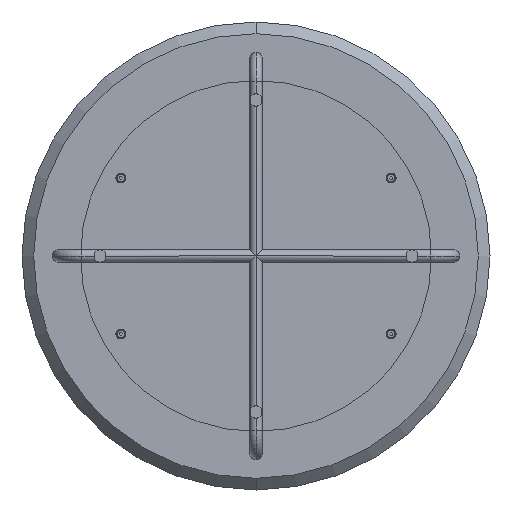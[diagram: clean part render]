
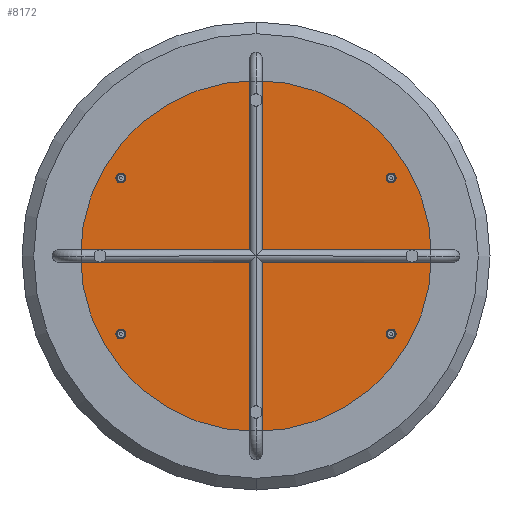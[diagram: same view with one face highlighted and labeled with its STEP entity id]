
A CAD part, front view. The second image highlights one B-rep face of the part: STEP entity #8172.
In plain terms, the highlighted planar face has unit normal (0, -1, 0) as drawn and (0, 0, 1) by its records, which use the part's own axes.
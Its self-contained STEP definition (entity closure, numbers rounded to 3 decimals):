
#62 = EDGE_LOOP ( 'NONE', ( #5763, #4122 ) ) ;
#75 = DIRECTION ( 'NONE',  ( 0., 0., 1. ) ) ;
#147 = VERTEX_POINT ( 'NONE', #12154 ) ;
#158 = CIRCLE ( 'NONE', #760, 2.8 ) ;
#176 = ORIENTED_EDGE ( 'NONE', *, *, #11193, .F. ) ;
#190 = FACE_BOUND ( 'NONE', #6697, .T. ) ;
#292 = CIRCLE ( 'NONE', #9315, 2.8 ) ;
#308 = CARTESIAN_POINT ( 'NONE',  ( -170.405, -100., -39.123 ) ) ;
#371 = CARTESIAN_POINT ( 'NONE',  ( 0., 0., -39.123 ) ) ;
#674 = EDGE_CURVE ( 'NONE', #9639, #7060, #11123, .T. ) ;
#696 = DIRECTION ( 'NONE',  ( 1., 0., 0. ) ) ;
#723 = CARTESIAN_POINT ( 'NONE',  ( -176.005, -100., -39.123 ) ) ;
#749 = CIRCLE ( 'NONE', #7604, 2.8 ) ;
#760 = AXIS2_PLACEMENT_3D ( 'NONE', #1659, #8228, #3571 ) ;
#762 = CARTESIAN_POINT ( 'NONE',  ( -173.205, 100., -39.123 ) ) ;
#764 = CIRCLE ( 'NONE', #7442, 2.8 ) ;
#841 = ORIENTED_EDGE ( 'NONE', *, *, #9899, .F. ) ;
#844 = ORIENTED_EDGE ( 'NONE', *, *, #8254, .F. ) ;
#873 = VERTEX_POINT ( 'NONE', #11907 ) ;
#958 = AXIS2_PLACEMENT_3D ( 'NONE', #8066, #5355, #696 ) ;
#1009 = CARTESIAN_POINT ( 'NONE',  ( -173.205, 100., -39.123 ) ) ;
#1077 = CIRCLE ( 'NONE', #7928, 2.8 ) ;
#1249 = ORIENTED_EDGE ( 'NONE', *, *, #2289, .F. ) ;
#1303 = DIRECTION ( 'NONE',  ( 1., 0., 0. ) ) ;
#1419 = DIRECTION ( 'NONE',  ( 1., 0., 0. ) ) ;
#1554 = CARTESIAN_POINT ( 'NONE',  ( 2.8, -200., -39.123 ) ) ;
#1637 = EDGE_LOOP ( 'NONE', ( #3566, #1249 ) ) ;
#1659 = CARTESIAN_POINT ( 'NONE',  ( -173.205, -100., -39.123 ) ) ;
#1666 = CARTESIAN_POINT ( 'NONE',  ( 176.005, 100., -39.123 ) ) ;
#1698 = VERTEX_POINT ( 'NONE', #1554 ) ;
#2044 = DIRECTION ( 'NONE',  ( 1., 0., 0. ) ) ;
#2052 = CARTESIAN_POINT ( 'NONE',  ( -2.8, 200., -39.123 ) ) ;
#2252 = DIRECTION ( 'NONE',  ( 0., 0., 1. ) ) ;
#2289 = EDGE_CURVE ( 'NONE', #2571, #6004, #1077, .T. ) ;
#2499 = VERTEX_POINT ( 'NONE', #4751 ) ;
#2571 = VERTEX_POINT ( 'NONE', #2052 ) ;
#2974 = FACE_BOUND ( 'NONE', #1637, .T. ) ;
#3034 = EDGE_CURVE ( 'NONE', #9051, #873, #292, .T. ) ;
#3117 = CARTESIAN_POINT ( 'NONE',  ( 170.405, 100., -39.123 ) ) ;
#3118 = CARTESIAN_POINT ( 'NONE',  ( 173.205, -100., -39.123 ) ) ;
#3123 = CIRCLE ( 'NONE', #4089, 2.8 ) ;
#3146 = AXIS2_PLACEMENT_3D ( 'NONE', #371, #8846, #1419 ) ;
#3206 = DIRECTION ( 'NONE',  ( 0., 0., 1. ) ) ;
#3325 = VERTEX_POINT ( 'NONE', #1666 ) ;
#3340 = VERTEX_POINT ( 'NONE', #4475 ) ;
#3537 = ORIENTED_EDGE ( 'NONE', *, *, #3034, .F. ) ;
#3566 = ORIENTED_EDGE ( 'NONE', *, *, #8347, .F. ) ;
#3571 = DIRECTION ( 'NONE',  ( 1., 0., 0. ) ) ;
#3613 = CARTESIAN_POINT ( 'NONE',  ( 170.405, -100., -39.123 ) ) ;
#3703 = CIRCLE ( 'NONE', #10562, 2.8 ) ;
#3740 = AXIS2_PLACEMENT_3D ( 'NONE', #4015, #6841, #10588 ) ;
#3887 = FACE_BOUND ( 'NONE', #11633, .T. ) ;
#3939 = CIRCLE ( 'NONE', #3740, 2.8 ) ;
#4015 = CARTESIAN_POINT ( 'NONE',  ( 0., -200., -39.123 ) ) ;
#4089 = AXIS2_PLACEMENT_3D ( 'NONE', #10636, #7743, #1303 ) ;
#4122 = ORIENTED_EDGE ( 'NONE', *, *, #8322, .T. ) ;
#4180 = VERTEX_POINT ( 'NONE', #3117 ) ;
#4200 = CARTESIAN_POINT ( 'NONE',  ( 176.005, -100., -39.123 ) ) ;
#4374 = EDGE_LOOP ( 'NONE', ( #5402, #10998 ) ) ;
#4475 = CARTESIAN_POINT ( 'NONE',  ( 225., 0., -39.123 ) ) ;
#4738 = FACE_BOUND ( 'NONE', #6514, .T. ) ;
#4751 = CARTESIAN_POINT ( 'NONE',  ( -2.8, -200., -39.123 ) ) ;
#5075 = CARTESIAN_POINT ( 'NONE',  ( -173.205, -100., -39.123 ) ) ;
#5355 = DIRECTION ( 'NONE',  ( 0., 0., 1. ) ) ;
#5402 = ORIENTED_EDGE ( 'NONE', *, *, #5833, .F. ) ;
#5528 = EDGE_CURVE ( 'NONE', #9945, #9627, #749, .T. ) ;
#5654 = AXIS2_PLACEMENT_3D ( 'NONE', #7092, #10842, #9911 ) ;
#5763 = ORIENTED_EDGE ( 'NONE', *, *, #8127, .T. ) ;
#5809 = AXIS2_PLACEMENT_3D ( 'NONE', #5075, #8825, #7720 ) ;
#5833 = EDGE_CURVE ( 'NONE', #7060, #9639, #158, .T. ) ;
#5982 = DIRECTION ( 'NONE',  ( 1., 0., 0. ) ) ;
#6004 = VERTEX_POINT ( 'NONE', #8536 ) ;
#6078 = DIRECTION ( 'NONE',  ( 0., 0., 1. ) ) ;
#6156 = ORIENTED_EDGE ( 'NONE', *, *, #8940, .F. ) ;
#6163 = DIRECTION ( 'NONE',  ( 1., 0., 0. ) ) ;
#6514 = EDGE_LOOP ( 'NONE', ( #10547, #841 ) ) ;
#6642 = FACE_BOUND ( 'NONE', #4374, .T. ) ;
#6697 = EDGE_LOOP ( 'NONE', ( #9860, #9202 ) ) ;
#6766 = DIRECTION ( 'NONE',  ( 1., 0., 0. ) ) ;
#6841 = DIRECTION ( 'NONE',  ( 0., 0., 1. ) ) ;
#7031 = CARTESIAN_POINT ( 'NONE',  ( 0., 200., -39.123 ) ) ;
#7060 = VERTEX_POINT ( 'NONE', #308 ) ;
#7067 = CARTESIAN_POINT ( 'NONE',  ( 173.205, -100., -39.123 ) ) ;
#7092 = CARTESIAN_POINT ( 'NONE',  ( 173.205, 100., -39.123 ) ) ;
#7442 = AXIS2_PLACEMENT_3D ( 'NONE', #1009, #75, #2044 ) ;
#7501 = DIRECTION ( 'NONE',  ( 0., 0., 1. ) ) ;
#7604 = AXIS2_PLACEMENT_3D ( 'NONE', #7067, #11745, #9762 ) ;
#7690 = CARTESIAN_POINT ( 'NONE',  ( -176.005, 100., -39.123 ) ) ;
#7720 = DIRECTION ( 'NONE',  ( 1., 0., 0. ) ) ;
#7743 = DIRECTION ( 'NONE',  ( 0., 0., 1. ) ) ;
#7812 = AXIS2_PLACEMENT_3D ( 'NONE', #9407, #11385, #6766 ) ;
#7835 = AXIS2_PLACEMENT_3D ( 'NONE', #3118, #2252, #6163 ) ;
#7928 = AXIS2_PLACEMENT_3D ( 'NONE', #7031, #11467, #5982 ) ;
#8066 = CARTESIAN_POINT ( 'NONE',  ( 0., 0., -39.123 ) ) ;
#8127 = EDGE_CURVE ( 'NONE', #147, #3340, #9576, .T. ) ;
#8172 = ADVANCED_FACE ( 'NONE', ( #2974, #9526, #6642, #3887, #4738, #190, #11445 ), #8497, .T. ) ;
#8228 = DIRECTION ( 'NONE',  ( 0., 0., 1. ) ) ;
#8254 = EDGE_CURVE ( 'NONE', #2499, #1698, #3703, .T. ) ;
#8322 = EDGE_CURVE ( 'NONE', #3340, #147, #11155, .T. ) ;
#8347 = EDGE_CURVE ( 'NONE', #6004, #2571, #3123, .T. ) ;
#8425 = CIRCLE ( 'NONE', #7835, 2.8 ) ;
#8497 = PLANE ( 'NONE',  #7812 ) ;
#8536 = CARTESIAN_POINT ( 'NONE',  ( 2.8, 200., -39.123 ) ) ;
#8668 = CARTESIAN_POINT ( 'NONE',  ( 173.205, 100., -39.123 ) ) ;
#8733 = DIRECTION ( 'NONE',  ( 1., 0., 0. ) ) ;
#8770 = EDGE_CURVE ( 'NONE', #4180, #3325, #11556, .T. ) ;
#8825 = DIRECTION ( 'NONE',  ( 0., 0., 1. ) ) ;
#8846 = DIRECTION ( 'NONE',  ( 0., 0., 1. ) ) ;
#8940 = EDGE_CURVE ( 'NONE', #873, #9051, #764, .T. ) ;
#9051 = VERTEX_POINT ( 'NONE', #7690 ) ;
#9202 = ORIENTED_EDGE ( 'NONE', *, *, #8770, .F. ) ;
#9315 = AXIS2_PLACEMENT_3D ( 'NONE', #762, #7501, #11391 ) ;
#9407 = CARTESIAN_POINT ( 'NONE',  ( 0., 0., -39.123 ) ) ;
#9526 = FACE_BOUND ( 'NONE', #11689, .T. ) ;
#9576 = CIRCLE ( 'NONE', #958, 225. ) ;
#9627 = VERTEX_POINT ( 'NONE', #3613 ) ;
#9639 = VERTEX_POINT ( 'NONE', #723 ) ;
#9702 = CARTESIAN_POINT ( 'NONE',  ( 0., -200., -39.123 ) ) ;
#9762 = DIRECTION ( 'NONE',  ( 1., 0., 0. ) ) ;
#9860 = ORIENTED_EDGE ( 'NONE', *, *, #10797, .F. ) ;
#9899 = EDGE_CURVE ( 'NONE', #9627, #9945, #8425, .T. ) ;
#9911 = DIRECTION ( 'NONE',  ( 1., 0., 0. ) ) ;
#9945 = VERTEX_POINT ( 'NONE', #4200 ) ;
#10547 = ORIENTED_EDGE ( 'NONE', *, *, #5528, .F. ) ;
#10562 = AXIS2_PLACEMENT_3D ( 'NONE', #9702, #6078, #8733 ) ;
#10588 = DIRECTION ( 'NONE',  ( 1., 0., 0. ) ) ;
#10636 = CARTESIAN_POINT ( 'NONE',  ( 0., 200., -39.123 ) ) ;
#10690 = DIRECTION ( 'NONE',  ( 1., 0., 0. ) ) ;
#10797 = EDGE_CURVE ( 'NONE', #3325, #4180, #11583, .T. ) ;
#10842 = DIRECTION ( 'NONE',  ( 0., 0., 1. ) ) ;
#10998 = ORIENTED_EDGE ( 'NONE', *, *, #674, .F. ) ;
#11123 = CIRCLE ( 'NONE', #5809, 2.8 ) ;
#11155 = CIRCLE ( 'NONE', #3146, 225. ) ;
#11193 = EDGE_CURVE ( 'NONE', #1698, #2499, #3939, .T. ) ;
#11385 = DIRECTION ( 'NONE',  ( 0., 0., 1. ) ) ;
#11390 = AXIS2_PLACEMENT_3D ( 'NONE', #8668, #3206, #10690 ) ;
#11391 = DIRECTION ( 'NONE',  ( 1., 0., 0. ) ) ;
#11445 = FACE_OUTER_BOUND ( 'NONE', #62, .T. ) ;
#11467 = DIRECTION ( 'NONE',  ( 0., 0., 1. ) ) ;
#11556 = CIRCLE ( 'NONE', #5654, 2.8 ) ;
#11583 = CIRCLE ( 'NONE', #11390, 2.8 ) ;
#11633 = EDGE_LOOP ( 'NONE', ( #176, #844 ) ) ;
#11689 = EDGE_LOOP ( 'NONE', ( #6156, #3537 ) ) ;
#11745 = DIRECTION ( 'NONE',  ( 0., 0., 1. ) ) ;
#11907 = CARTESIAN_POINT ( 'NONE',  ( -170.405, 100., -39.123 ) ) ;
#12154 = CARTESIAN_POINT ( 'NONE',  ( -225., 0., -39.123 ) ) ;
